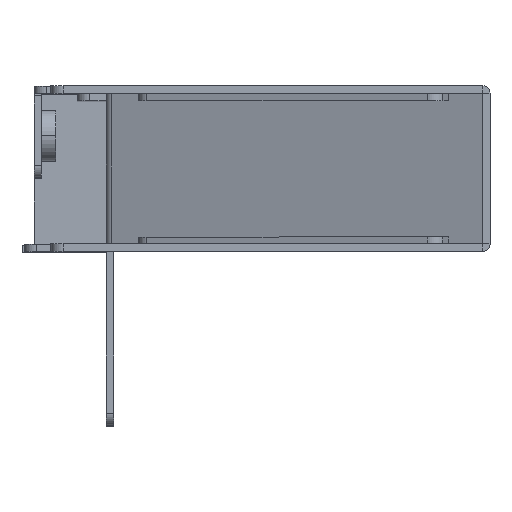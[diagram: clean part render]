
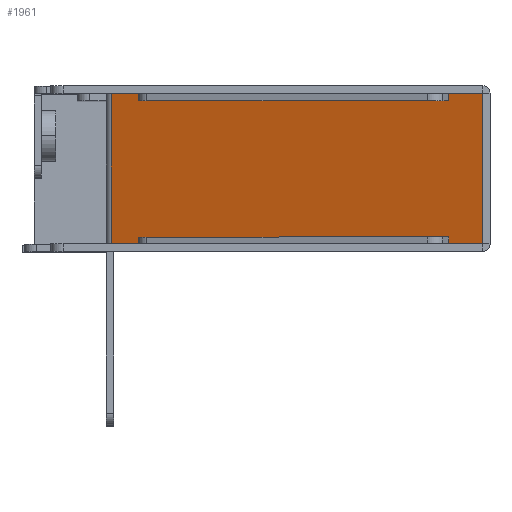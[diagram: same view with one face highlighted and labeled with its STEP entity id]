
A CAD part, top view. The second image highlights one B-rep face of the part: STEP entity #1961.
In plain terms, the highlighted planar face has unit normal (-0.342, 0, 0.94).
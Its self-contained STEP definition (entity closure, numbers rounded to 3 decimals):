
#81=DIRECTION('',(0.,1.,0.));
#82=VECTOR('',#81,12.5);
#83=CARTESIAN_POINT('',(-211.405,68.8,-25.792));
#84=LINE('',#83,#82);
#102=DIRECTION('',(-0.94,0.,-0.342));
#103=VECTOR('',#102,3.);
#104=CARTESIAN_POINT('',(-180.6,81.3,-14.58));
#105=LINE('',#104,#103);
#110=DIRECTION('',(-0.94,0.,-0.342));
#111=VECTOR('',#110,3.);
#112=CARTESIAN_POINT('',(-208.586,81.3,-24.766));
#113=LINE('',#112,#111);
#146=DIRECTION('',(-0.94,0.,-0.342));
#147=VECTOR('',#146,3.);
#148=CARTESIAN_POINT('',(-208.586,68.8,-24.766));
#149=LINE('',#148,#147);
#154=DIRECTION('',(-0.94,0.,-0.342));
#155=VECTOR('',#154,3.);
#156=CARTESIAN_POINT('',(-180.6,68.8,-14.58));
#157=LINE('',#156,#155);
#166=DIRECTION('',(0.,1.,0.));
#167=VECTOR('',#166,0.6);
#168=CARTESIAN_POINT('',(-208.586,80.7,-24.766));
#169=LINE('',#168,#167);
#170=DIRECTION('',(0.,1.,0.));
#171=VECTOR('',#170,0.6);
#172=CARTESIAN_POINT('',(-183.419,80.7,-15.606));
#173=LINE('',#172,#171);
#174=DIRECTION('',(0.,1.,0.));
#175=VECTOR('',#174,12.5);
#176=CARTESIAN_POINT('',(-180.6,68.8,-14.58));
#177=LINE('',#176,#175);
#178=DIRECTION('',(0.,-1.,0.));
#179=VECTOR('',#178,0.6);
#180=CARTESIAN_POINT('',(-183.419,69.4,-15.606));
#181=LINE('',#180,#179);
#182=DIRECTION('',(0.,-1.,0.));
#183=VECTOR('',#182,0.6);
#184=CARTESIAN_POINT('',(-208.586,69.4,-24.766));
#185=LINE('',#184,#183);
#272=DIRECTION('',(-0.94,0.,-0.342));
#273=VECTOR('',#272,26.782);
#274=CARTESIAN_POINT('',(-183.419,80.7,-15.606));
#275=LINE('',#274,#273);
#954=DIRECTION('',(0.94,0.,0.342));
#955=VECTOR('',#954,26.782);
#956=CARTESIAN_POINT('',(-208.586,69.4,-24.766));
#957=LINE('',#956,#955);
#1342=CARTESIAN_POINT('',(-211.405,68.8,-25.792));
#1343=CARTESIAN_POINT('',(-211.405,81.3,-25.792));
#1344=VERTEX_POINT('',#1342);
#1345=VERTEX_POINT('',#1343);
#1362=CARTESIAN_POINT('',(-180.6,68.8,-14.58));
#1363=VERTEX_POINT('',#1362);
#1364=CARTESIAN_POINT('',(-180.6,81.3,-14.58));
#1365=VERTEX_POINT('',#1364);
#1424=CARTESIAN_POINT('',(-208.586,80.7,-24.766));
#1425=CARTESIAN_POINT('',(-208.586,81.3,-24.766));
#1426=VERTEX_POINT('',#1424);
#1427=VERTEX_POINT('',#1425);
#1432=CARTESIAN_POINT('',(-183.419,80.7,-15.606));
#1433=CARTESIAN_POINT('',(-183.419,81.3,-15.606));
#1434=VERTEX_POINT('',#1432);
#1435=VERTEX_POINT('',#1433);
#1444=CARTESIAN_POINT('',(-183.419,69.4,-15.606));
#1445=CARTESIAN_POINT('',(-183.419,68.8,-15.606));
#1446=VERTEX_POINT('',#1444);
#1447=VERTEX_POINT('',#1445);
#1452=CARTESIAN_POINT('',(-208.586,69.4,-24.766));
#1453=CARTESIAN_POINT('',(-208.586,68.8,-24.766));
#1454=VERTEX_POINT('',#1452);
#1455=VERTEX_POINT('',#1453);
#1937=CARTESIAN_POINT('',(-180.205,68.8,-14.436));
#1938=DIRECTION('',(0.342,0.,-0.94));
#1939=DIRECTION('',(-0.94,0.,-0.342));
#1940=AXIS2_PLACEMENT_3D('',#1937,#1938,#1939);
#1941=PLANE('',#1940);
#1942=ORIENTED_EDGE('',*,*,#1903,.T.);
#1943=ORIENTED_EDGE('',*,*,#1800,.T.);
#1944=ORIENTED_EDGE('',*,*,#1842,.F.);
#1946=ORIENTED_EDGE('',*,*,#1945,.F.);
#1948=ORIENTED_EDGE('',*,*,#1947,.F.);
#1949=ORIENTED_EDGE('',*,*,#1858,.T.);
#1950=ORIENTED_EDGE('',*,*,#1830,.F.);
#1952=ORIENTED_EDGE('',*,*,#1951,.F.);
#1953=ORIENTED_EDGE('',*,*,#1915,.T.);
#1955=ORIENTED_EDGE('',*,*,#1954,.F.);
#1957=ORIENTED_EDGE('',*,*,#1956,.F.);
#1958=ORIENTED_EDGE('',*,*,#1930,.T.);
#1959=EDGE_LOOP('',(#1942,#1943,#1944,#1946,#1948,#1949,#1950,#1952,#1953,#1955,
#1957,#1958));
#1960=FACE_OUTER_BOUND('',#1959,.F.);
#1800=EDGE_CURVE('',#1344,#1345,#84,.T.);
#1830=EDGE_CURVE('',#1365,#1435,#105,.T.);
#1842=EDGE_CURVE('',#1427,#1345,#113,.T.);
#1858=EDGE_CURVE('',#1434,#1435,#173,.T.);
#1903=EDGE_CURVE('',#1455,#1344,#149,.T.);
#1915=EDGE_CURVE('',#1363,#1447,#157,.T.);
#1930=EDGE_CURVE('',#1454,#1455,#185,.T.);
#1945=EDGE_CURVE('',#1426,#1427,#169,.T.);
#1947=EDGE_CURVE('',#1434,#1426,#275,.T.);
#1951=EDGE_CURVE('',#1363,#1365,#177,.T.);
#1954=EDGE_CURVE('',#1446,#1447,#181,.T.);
#1956=EDGE_CURVE('',#1454,#1446,#957,.T.);
#1961=ADVANCED_FACE('',(#1960),#1941,.F.);
